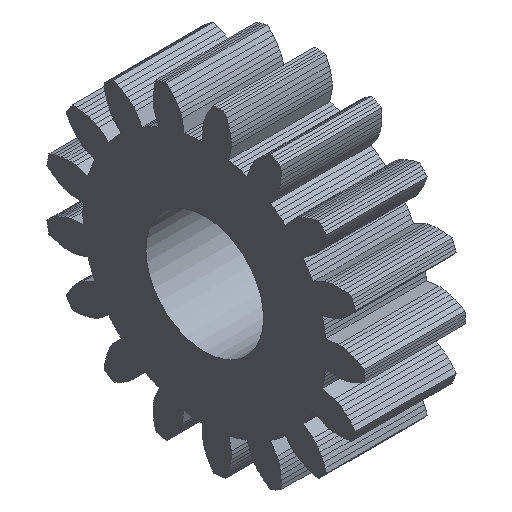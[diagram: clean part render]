
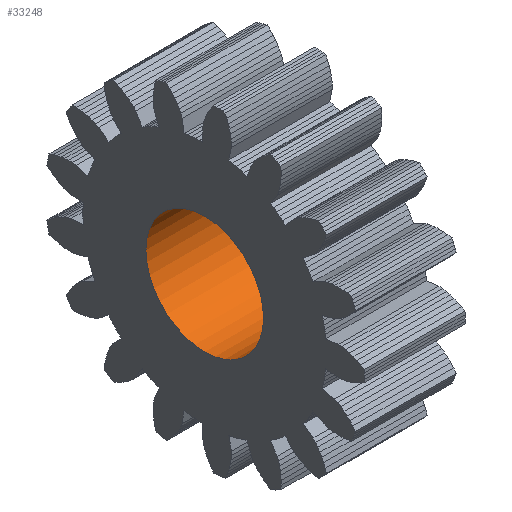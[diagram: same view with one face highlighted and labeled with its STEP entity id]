
A CAD part, isometric view. The second image highlights one B-rep face of the part: STEP entity #33248.
In plain terms, the highlighted cylindrical face has radius 7 mm (diameter 14 mm), a full revolution.
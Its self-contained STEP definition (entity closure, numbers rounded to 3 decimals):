
#72 = PLANE('',#73);
#73 = AXIS2_PLACEMENT_3D('',#74,#75,#76);
#74 = CARTESIAN_POINT('',(46.,0.,0.));
#75 = DIRECTION('',(1.,0.,0.));
#76 = DIRECTION('',(0.,-0.446,-0.895));
#126 = PLANE('',#127);
#127 = AXIS2_PLACEMENT_3D('',#128,#129,#130);
#128 = CARTESIAN_POINT('',(34.,0.,0.));
#129 = DIRECTION('',(1.,0.,0.));
#130 = DIRECTION('',(0.,-0.446,-0.895));
#12102 = EDGE_CURVE('',#12103,#12103,#12105,.T.);
#12103 = VERTEX_POINT('',#12104);
#12104 = CARTESIAN_POINT('',(34.,7.,0.));
#12105 = SURFACE_CURVE('',#12106,(#12111,#12122),.PCURVE_S1.);
#12106 = CIRCLE('',#12107,7.);
#12107 = AXIS2_PLACEMENT_3D('',#12108,#12109,#12110);
#12108 = CARTESIAN_POINT('',(34.,0.,0.));
#12109 = DIRECTION('',(-1.,0.,0.));
#12110 = DIRECTION('',(0.,1.,0.));
#12111 = PCURVE('',#126,#12112);
#12112 = DEFINITIONAL_REPRESENTATION('',(#12113),#12121);
#12113 = ( BOUNDED_CURVE() B_SPLINE_CURVE(2,(#12114,#12115,#12116,#12117
    ,#12118,#12119,#12120),.UNSPECIFIED.,.T.,.F.) 
B_SPLINE_CURVE_WITH_KNOTS((1,2,2,2,2,1),(-2.094,0.,
    2.094,4.189,6.283,8.378),
.UNSPECIFIED.) CURVE() GEOMETRIC_REPRESENTATION_ITEM() 
RATIONAL_B_SPLINE_CURVE((1.,0.5,1.,0.5,1.,0.5,1.)) REPRESENTATION_ITEM(
  '') );
#12114 = CARTESIAN_POINT('',(-3.12,6.266));
#12115 = CARTESIAN_POINT('',(7.733,11.67));
#12116 = CARTESIAN_POINT('',(6.987,-0.431));
#12117 = CARTESIAN_POINT('',(6.24,-12.532));
#12118 = CARTESIAN_POINT('',(-3.867,-5.835));
#12119 = CARTESIAN_POINT('',(-13.973,0.862));
#12120 = CARTESIAN_POINT('',(-3.12,6.266));
#12121 = ( GEOMETRIC_REPRESENTATION_CONTEXT(2) 
PARAMETRIC_REPRESENTATION_CONTEXT() REPRESENTATION_CONTEXT('2D SPACE',''
  ) );
#12122 = PCURVE('',#12123,#12128);
#12123 = CYLINDRICAL_SURFACE('',#12124,7.);
#12124 = AXIS2_PLACEMENT_3D('',#12125,#12126,#12127);
#12125 = CARTESIAN_POINT('',(33.,0.,0.));
#12126 = DIRECTION('',(-1.,-0.,-0.));
#12127 = DIRECTION('',(0.,1.,0.));
#12128 = DEFINITIONAL_REPRESENTATION('',(#12129),#12133);
#12129 = LINE('',#12130,#12131);
#12130 = CARTESIAN_POINT('',(-6.283,-1.));
#12131 = VECTOR('',#12132,1.);
#12132 = DIRECTION('',(1.,-0.));
#12133 = ( GEOMETRIC_REPRESENTATION_CONTEXT(2) 
PARAMETRIC_REPRESENTATION_CONTEXT() REPRESENTATION_CONTEXT('2D SPACE',''
  ) );
#21847 = EDGE_CURVE('',#21848,#21848,#21850,.T.);
#21848 = VERTEX_POINT('',#21849);
#21849 = CARTESIAN_POINT('',(46.,7.,0.));
#21850 = SURFACE_CURVE('',#21851,(#21856,#21867),.PCURVE_S1.);
#21851 = CIRCLE('',#21852,7.);
#21852 = AXIS2_PLACEMENT_3D('',#21853,#21854,#21855);
#21853 = CARTESIAN_POINT('',(46.,0.,0.));
#21854 = DIRECTION('',(-1.,0.,0.));
#21855 = DIRECTION('',(0.,1.,0.));
#21856 = PCURVE('',#72,#21857);
#21857 = DEFINITIONAL_REPRESENTATION('',(#21858),#21866);
#21858 = ( BOUNDED_CURVE() B_SPLINE_CURVE(2,(#21859,#21860,#21861,#21862
    ,#21863,#21864,#21865),.UNSPECIFIED.,.T.,.F.) 
B_SPLINE_CURVE_WITH_KNOTS((1,2,2,2,2,1),(-2.094,0.,
    2.094,4.189,6.283,8.378),
.UNSPECIFIED.) CURVE() GEOMETRIC_REPRESENTATION_ITEM() 
RATIONAL_B_SPLINE_CURVE((1.,0.5,1.,0.5,1.,0.5,1.)) REPRESENTATION_ITEM(
  '') );
#21859 = CARTESIAN_POINT('',(-3.12,6.266));
#21860 = CARTESIAN_POINT('',(7.733,11.67));
#21861 = CARTESIAN_POINT('',(6.987,-0.431));
#21862 = CARTESIAN_POINT('',(6.24,-12.532));
#21863 = CARTESIAN_POINT('',(-3.867,-5.835));
#21864 = CARTESIAN_POINT('',(-13.973,0.862));
#21865 = CARTESIAN_POINT('',(-3.12,6.266));
#21866 = ( GEOMETRIC_REPRESENTATION_CONTEXT(2) 
PARAMETRIC_REPRESENTATION_CONTEXT() REPRESENTATION_CONTEXT('2D SPACE',''
  ) );
#21867 = PCURVE('',#12123,#21868);
#21868 = DEFINITIONAL_REPRESENTATION('',(#21869),#21873);
#21869 = LINE('',#21870,#21871);
#21870 = CARTESIAN_POINT('',(-6.283,-13.));
#21871 = VECTOR('',#21872,1.);
#21872 = DIRECTION('',(1.,-0.));
#21873 = ( GEOMETRIC_REPRESENTATION_CONTEXT(2) 
PARAMETRIC_REPRESENTATION_CONTEXT() REPRESENTATION_CONTEXT('2D SPACE',''
  ) );
#33248 = ADVANCED_FACE('',(#33249),#12123,.F.);
#33249 = FACE_BOUND('',#33250,.T.);
#33250 = EDGE_LOOP('',(#33251,#33252,#33273,#33274));
#33251 = ORIENTED_EDGE('',*,*,#12102,.T.);
#33252 = ORIENTED_EDGE('',*,*,#33253,.T.);
#33253 = EDGE_CURVE('',#12103,#21848,#33254,.T.);
#33254 = SEAM_CURVE('',#33255,(#33259,#33266),.PCURVE_S1.);
#33255 = LINE('',#33256,#33257);
#33256 = CARTESIAN_POINT('',(33.,7.,0.));
#33257 = VECTOR('',#33258,1.);
#33258 = DIRECTION('',(1.,0.,0.));
#33259 = PCURVE('',#12123,#33260);
#33260 = DEFINITIONAL_REPRESENTATION('',(#33261),#33265);
#33261 = LINE('',#33262,#33263);
#33262 = CARTESIAN_POINT('',(-6.283,0.));
#33263 = VECTOR('',#33264,1.);
#33264 = DIRECTION('',(-0.,-1.));
#33265 = ( GEOMETRIC_REPRESENTATION_CONTEXT(2) 
PARAMETRIC_REPRESENTATION_CONTEXT() REPRESENTATION_CONTEXT('2D SPACE',''
  ) );
#33266 = PCURVE('',#12123,#33267);
#33267 = DEFINITIONAL_REPRESENTATION('',(#33268),#33272);
#33268 = LINE('',#33269,#33270);
#33269 = CARTESIAN_POINT('',(-0.,0.));
#33270 = VECTOR('',#33271,1.);
#33271 = DIRECTION('',(-0.,-1.));
#33272 = ( GEOMETRIC_REPRESENTATION_CONTEXT(2) 
PARAMETRIC_REPRESENTATION_CONTEXT() REPRESENTATION_CONTEXT('2D SPACE',''
  ) );
#33273 = ORIENTED_EDGE('',*,*,#21847,.F.);
#33274 = ORIENTED_EDGE('',*,*,#33253,.F.);
